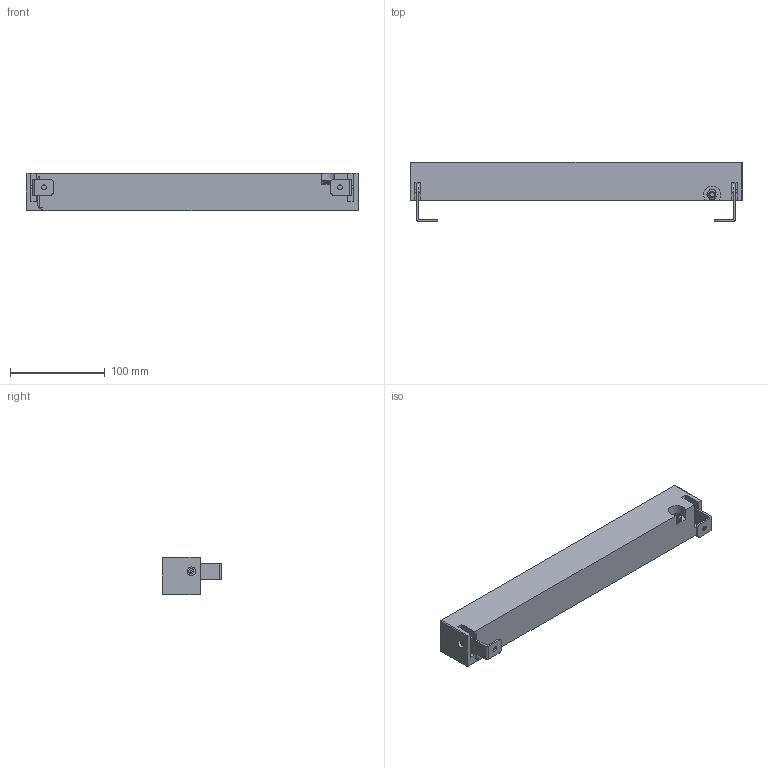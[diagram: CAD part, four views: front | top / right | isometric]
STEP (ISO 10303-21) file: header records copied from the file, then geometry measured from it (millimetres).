
FILE_DESCRIPTION(/* description */ (''),/* implementation_level */ '2;1');
FILE_NAME(/* name */ 'C:/Elena/ILM/02 3D/Elvira/Pubblico/Elvira 30.step',/* time_stamp */ '2020-06-05T12:08:33+02:00',/* author */ (''),/* organization */ (''),/* preprocessor_version */ 'ST-DEVELOPER v18.1',/* originating_system */ 'Autodesk Translation Framework v9.3.0.1241',/* authorisation */ '');
FILE_SCHEMA (('AUTOMOTIVE_DESIGN { 1 0 10303 214 3 1 1 }'));
Length unit declared in the file: millimetre
Products named in the file (1): (Unsaved)
Bounding box: 350 x 62.55 x 40 mm (x, y, z)
Volume: 551272.1 mm3; surface area: 102827 mm2
Topology: 7 solids, 7 shells, 164 faces, 401 edges, 260 vertices
Faces by surface type: plane 106, cylinder 53, cone 5
Full cylindrical faces by diameter (mm): 3 x2, 5 x7, 5.5 x2, 9 x2, 10 x1, 10.127 x1
Entity records: 4894 total; most frequent: DIRECTION 855, CARTESIAN_POINT 850, ORIENTED_EDGE 802, EDGE_CURVE 401, AXIS2_PLACEMENT_3D 293, LINE 269, VECTOR 269, VERTEX_POINT 260
